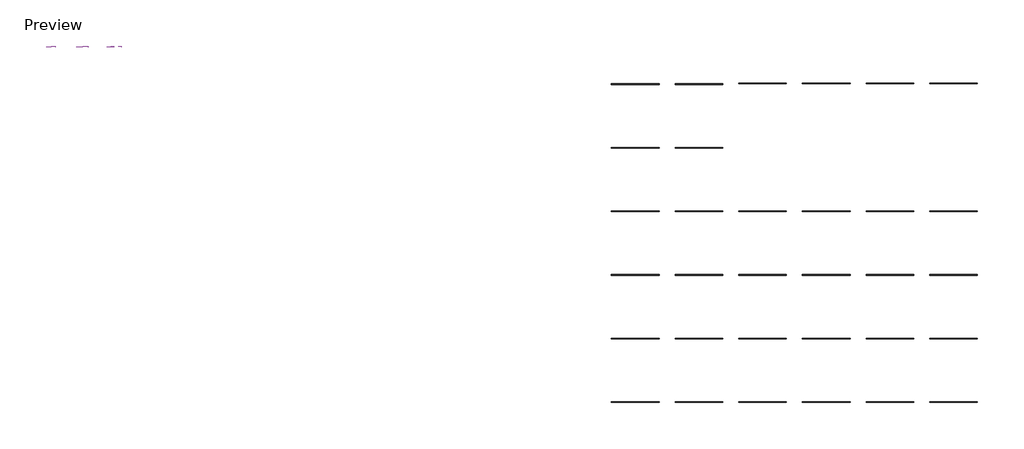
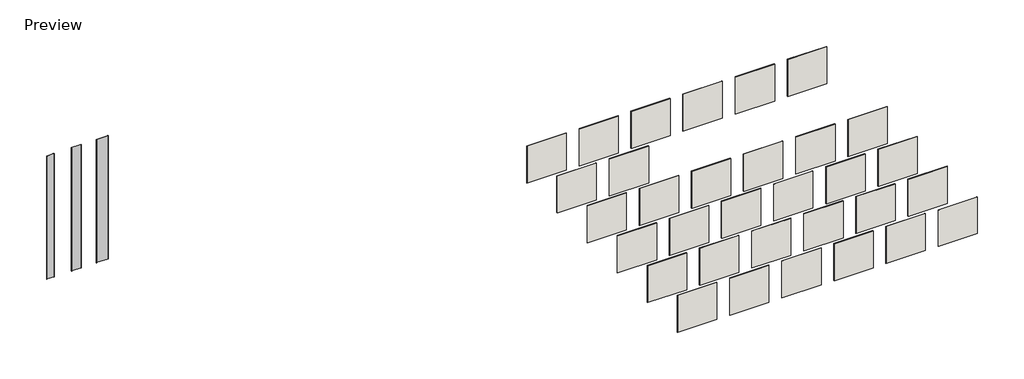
# One storey: 32 walls, 3 proxies.
"""IFC4 building model written with IfcOpenShell, lengths in millimetres."""

from ifc_helpers import new_model, si_unit, frame, origin, origin_with_axes, place, context, project, spatial, polyline, outline, extrude, transform, mapped, element, save
from components import field_lok_fll135_fll135_bba9566f, field_lok_fll175_fll175_662b81a3, field_lok_fll217_fll217_9bbd02b4

model = new_model("IFC4")

# Units and contexts
model_context = context("Model", 3, world=origin())
ifc_project = project(units=[si_unit("LENGTHUNIT", "METRE", prefix="MILLI")], contexts=[model_context])

# Site, building, storey
site = spatial("IfcSite", under=ifc_project)
building = spatial("IfcBuilding", under=site)
storey = spatial("IfcBuildingStorey", under=building, Name="Preview", Elevation=0.0)

# Proxies
placement = place(None, origin())
field_lok_fll135_fll135_shape = field_lok_fll135_fll135_bba9566f(model_context)
element("IfcBuildingElementProxy", 1, Name="Field Lok FLL135 : FLL135", ObjectType="Field Lok FLL135 : FLL135", at=placement, inside=storey, context=model_context, shape_type="MappedRepresentation", body=[
    mapped(field_lok_fll135_fll135_shape, transform((-42009.9924987, 19903.0873646, 4990.816913), x_axis=(0.0, 0.0, 1.0), y_axis=(-1.0, 0.0, 0.0), z_axis=(0.0, -1.0, 0.0))),
])
field_lok_fll175_fll175_shape = field_lok_fll175_fll175_662b81a3(model_context)
element("IfcBuildingElementProxy", 2, Name="Field Lok FLL175 : FLL175", ObjectType="Field Lok FLL175 : FLL175", at=placement, inside=storey, context=model_context, shape_type="MappedRepresentation", body=[
    mapped(field_lok_fll175_fll175_shape, transform((-40762.8993635, 19903.0873646, 5083.7483272), x_axis=(0.0, 0.0, 1.0), y_axis=(-1.0, 0.0, 0.0), z_axis=(0.0, -1.0, 0.0))),
])
field_lok_fll217_fll217_shape = field_lok_fll217_fll217_9bbd02b4(model_context)
element("IfcBuildingElementProxy", 3, Name="Field Lok FLL217 : FLL217", ObjectType="Field Lok FLL217 : FLL217", at=placement, inside=storey, context=model_context, shape_type="MappedRepresentation", body=[
    mapped(field_lok_fll217_fll217_shape, transform((-39430.3124938, 19744.2251808, 5083.7483272), x_axis=(0.0, 0.0, 1.0), y_axis=(-1.0, 0.0, 0.0), z_axis=(0.0, -1.0, 0.0))),
])

# Walls
element("IfcWall", 4, ObjectType="ATAS_Ascot White", at=placement, inside=storey, context=model_context, shape_type="SweptSolid", body=[
    extrude(outline(polyline([(-18839.3718391, 8535.7201131), (-20668.1718391, 8535.7201131), (-20668.1718391, 8559.5326131), (-18839.3718391, 8559.5326131), (-18839.3718391, 8535.7201131)])), origin_with_axes(), (0.0, 0.0, 1.0), 1828.8),
])
element("IfcWall", 5, ObjectType="ATAS_Classic Bronze", at=placement, inside=storey, context=model_context, shape_type="SweptSolid", body=[
    extrude(outline(polyline([(-16400.9718391, 8535.7201131), (-18229.7718391, 8535.7201131), (-18229.7718391, 8559.5326131), (-16400.9718391, 8559.5326131), (-16400.9718391, 8535.7201131)])), origin_with_axes(), (0.0, 0.0, 1.0), 1828.8),
])
element("IfcWall", 6, ObjectType="ATAS_Teal", at=placement, inside=storey, context=model_context, shape_type="SweptSolid", body=[
    extrude(outline(polyline([(-13962.5718391, 8535.7201131), (-15791.3718391, 8535.7201131), (-15791.3718391, 8559.5326131), (-13962.5718391, 8559.5326131), (-13962.5718391, 8535.7201131)])), origin_with_axes(), (0.0, 0.0, 1.0), 1828.8),
])
element("IfcWall", 7, ObjectType="ATAS_Boysenberry", at=placement, inside=storey, context=model_context, shape_type="SweptSolid", body=[
    extrude(outline(polyline([(-11524.1718391, 8535.7201131), (-13352.9718391, 8535.7201131), (-13352.9718391, 8559.5326131), (-11524.1718391, 8559.5326131), (-11524.1718391, 8535.7201131)])), origin_with_axes(), (0.0, 0.0, 1.0), 1828.8),
])
element("IfcWall", 8, ObjectType="ATAS_Rawhide", at=placement, inside=storey, context=model_context, shape_type="SweptSolid", body=[
    extrude(outline(polyline([(-9085.7718391, 8535.7201131), (-10914.5718391, 8535.7201131), (-10914.5718391, 8559.5326131), (-9085.7718391, 8559.5326131), (-9085.7718391, 8535.7201131)])), origin_with_axes(), (0.0, 0.0, 1.0), 1828.8),
])
element("IfcWall", 9, ObjectType="ATAS_Regal Blue", at=placement, inside=storey, context=model_context, shape_type="SweptSolid", body=[
    extrude(outline(polyline([(-6647.3718391, 8535.7201131), (-8476.1718391, 8535.7201131), (-8476.1718391, 8559.5326131), (-6647.3718391, 8559.5326131), (-6647.3718391, 8535.7201131)])), origin_with_axes(), (0.0, 0.0, 1.0), 1828.8),
])
element("IfcWall", 10, ObjectType="ATAS_Black", at=placement, inside=storey, context=model_context, shape_type="SweptSolid", body=[
    extrude(outline(polyline([(-18839.3718391, 6097.3201131), (-20668.1718391, 6097.3201131), (-20668.1718391, 6121.1326131), (-18839.3718391, 6121.1326131), (-18839.3718391, 6097.3201131)])), origin_with_axes(), (0.0, 0.0, 1.0), 1828.8),
])
element("IfcWall", 11, ObjectType="ATAS_Forest Green", at=placement, inside=storey, context=model_context, shape_type="SweptSolid", body=[
    extrude(outline(polyline([(-16400.9718391, 6097.3201131), (-18229.7718391, 6097.3201131), (-18229.7718391, 6121.1326131), (-16400.9718391, 6121.1326131), (-16400.9718391, 6097.3201131)])), origin_with_axes(), (0.0, 0.0, 1.0), 1828.8),
])
element("IfcWall", 12, ObjectType="ATAS_Chocolate Brown", at=placement, inside=storey, context=model_context, shape_type="SweptSolid", body=[
    extrude(outline(polyline([(-13962.5718391, 6097.3201131), (-15791.3718391, 6097.3201131), (-15791.3718391, 6121.1326131), (-13962.5718391, 6121.1326131), (-13962.5718391, 6097.3201131)])), origin_with_axes(), (0.0, 0.0, 1.0), 1828.8),
])
element("IfcWall", 13, ObjectType="ATAS_Sierra Tan", at=placement, inside=storey, context=model_context, shape_type="SweptSolid", body=[
    extrude(outline(polyline([(-11524.1718391, 6097.3201131), (-13352.9718391, 6097.3201131), (-13352.9718391, 6121.1326131), (-11524.1718391, 6121.1326131), (-11524.1718391, 6097.3201131)])), origin_with_axes(), (0.0, 0.0, 1.0), 1828.8),
])
element("IfcWall", 14, ObjectType="ATAS_Sandstone", at=placement, inside=storey, context=model_context, shape_type="SweptSolid", body=[
    extrude(outline(polyline([(-9085.7718391, 6097.3201131), (-10914.5718391, 6097.3201131), (-10914.5718391, 6121.1326131), (-9085.7718391, 6121.1326131), (-9085.7718391, 6097.3201131)])), origin_with_axes(), (0.0, 0.0, 1.0), 1828.8),
])
element("IfcWall", 15, ObjectType="ATAS_Rocky Grey", at=placement, inside=storey, context=model_context, shape_type="SweptSolid", body=[
    extrude(outline(polyline([(-6647.3718391, 6097.3201131), (-8476.1718391, 6097.3201131), (-8476.1718391, 6121.1326131), (-6647.3718391, 6121.1326131), (-6647.3718391, 6097.3201131)])), origin_with_axes(), (0.0, 0.0, 1.0), 1793.6354952),
])
element("IfcWall", 16, ObjectType="ATAS_Charcoal Grey", at=placement, inside=storey, context=model_context, shape_type="SweptSolid", body=[
    extrude(outline(polyline([(-18839.3718391, 10974.1201131), (-20668.1718391, 10974.1201131), (-20668.1718391, 10997.9326131), (-18839.3718391, 10997.9326131), (-18839.3718391, 10974.1201131)])), origin_with_axes(), (0.0, 0.0, 1.0), 1828.8),
])
element("IfcWall", 17, ObjectType="ATAS_Bone White", at=placement, inside=storey, context=model_context, shape_type="SweptSolid", body=[
    extrude(outline(polyline([(-16400.9718391, 10974.1201131), (-18229.7718391, 10974.1201131), (-18229.7718391, 10997.9326131), (-16400.9718391, 10997.9326131), (-16400.9718391, 10974.1201131)])), origin_with_axes(), (0.0, 0.0, 1.0), 1828.8),
])
element("IfcWall", 18, ObjectType="ATAS_Medium Bronze", at=placement, inside=storey, context=model_context, shape_type="SweptSolid", body=[
    extrude(outline(polyline([(-13962.5718391, 10974.1201131), (-15791.3718391, 10974.1201131), (-15791.3718391, 10997.9326131), (-13962.5718391, 10997.9326131), (-13962.5718391, 10974.1201131)])), origin_with_axes(), (0.0, 0.0, 1.0), 1828.8),
])
element("IfcWall", 19, ObjectType="ATAS_Hemlock Green", at=placement, inside=storey, context=model_context, shape_type="SweptSolid", body=[
    extrude(outline(polyline([(-11524.1718391, 10974.1201131), (-13352.9718391, 10974.1201131), (-13352.9718391, 10997.9326131), (-11524.1718391, 10997.9326131), (-11524.1718391, 10974.1201131)])), origin_with_axes(), (0.0, 0.0, 1.0), 1828.8),
])
element("IfcWall", 20, ObjectType="ATAS_Redwood", at=placement, inside=storey, context=model_context, shape_type="SweptSolid", body=[
    extrude(outline(polyline([(-9085.7718391, 10974.1201131), (-10914.5718391, 10974.1201131), (-10914.5718391, 10997.9326131), (-9085.7718391, 10997.9326131), (-9085.7718391, 10974.1201131)])), origin_with_axes(), (0.0, 0.0, 1.0), 1828.8),
])
element("IfcWall", 21, ObjectType="ATAS_Concord Cream", at=placement, inside=storey, context=model_context, shape_type="SweptSolid", body=[
    extrude(outline(polyline([(-6647.3718391, 10974.1201131), (-8476.1718391, 10974.1201131), (-8476.1718391, 10997.9326131), (-6647.3718391, 10997.9326131), (-6647.3718391, 10974.1201131)])), origin_with_axes(), (0.0, 0.0, 1.0), 1828.8),
])
element("IfcWall", 22, ObjectType="ATAS_Slate Blue", at=placement, inside=storey, context=model_context, shape_type="SweptSolid", body=[
    extrude(outline(polyline([(-18839.3718391, 13412.5201131), (-20668.1718391, 13412.5201131), (-20668.1718391, 13436.3326131), (-18839.3718391, 13436.3326131), (-18839.3718391, 13412.5201131)])), origin_with_axes(), (0.0, 0.0, 1.0), 1828.8),
])
element("IfcWall", 23, ObjectType="ATAS_Slate Grey", at=placement, inside=storey, context=model_context, shape_type="SweptSolid", body=[
    extrude(outline(polyline([(-16400.9718391, 13412.5201131), (-18229.7718391, 13412.5201131), (-18229.7718391, 13436.3326131), (-16400.9718391, 13436.3326131), (-16400.9718391, 13412.5201131)])), origin_with_axes(), (0.0, 0.0, 1.0), 1828.8),
])
element("IfcWall", 24, ObjectType="ATAS_Hatford Green", at=placement, inside=storey, context=model_context, shape_type="SweptSolid", body=[
    extrude(outline(polyline([(-13962.5718391, 13412.5201131), (-15791.3718391, 13412.5201131), (-15791.3718391, 13436.3326131), (-13962.5718391, 13436.3326131), (-13962.5718391, 13412.5201131)])), origin_with_axes(), (0.0, 0.0, 1.0), 1828.8),
])
element("IfcWall", 25, ObjectType="ATAS_Patina Green", at=placement, inside=storey, context=model_context, shape_type="SweptSolid", body=[
    extrude(outline(polyline([(-11524.1718391, 13412.5201131), (-13352.9718391, 13412.5201131), (-13352.9718391, 13436.3326131), (-11524.1718391, 13436.3326131), (-11524.1718391, 13412.5201131)])), frame((0.0, 0.0, -5.2424975), z_axis=(0.0, 0.0, 1.0), x_axis=(1.0, 0.0, 0.0)), (0.0, 0.0, 1.0), 1834.0424975),
])
element("IfcWall", 26, ObjectType="ATAS_Mission Red", at=placement, inside=storey, context=model_context, shape_type="SweptSolid", body=[
    extrude(outline(polyline([(-9085.7718391, 13412.5201131), (-10914.5718391, 13412.5201131), (-10914.5718391, 13436.3326131), (-9085.7718391, 13436.3326131), (-9085.7718391, 13412.5201131)])), origin_with_axes(), (0.0, 0.0, 1.0), 1828.8),
])
element("IfcWall", 27, ObjectType="ATAS_Almond", at=placement, inside=storey, context=model_context, shape_type="SweptSolid", body=[
    extrude(outline(polyline([(-6647.3718391, 13412.5201131), (-8476.1718391, 13412.5201131), (-8476.1718391, 13436.3326131), (-6647.3718391, 13436.3326131), (-6647.3718391, 13412.5201131)])), origin_with_axes(), (0.0, 0.0, 1.0), 1828.8),
])
element("IfcWall", 28, ObjectType="ATAS_Siam Blue", at=placement, inside=storey, context=model_context, shape_type="SweptSolid", body=[
    extrude(outline(polyline([(-18839.3718391, 15850.9201131), (-20668.1718391, 15850.9201131), (-20668.1718391, 15874.7326131), (-18839.3718391, 15874.7326131), (-18839.3718391, 15850.9201131)])), origin_with_axes(), (0.0, 0.0, 1.0), 1828.8),
])
element("IfcWall", 29, ObjectType="ATAS_Dove Grey", at=placement, inside=storey, context=model_context, shape_type="SweptSolid", body=[
    extrude(outline(polyline([(-16400.9718391, 15850.9201131), (-18229.7718391, 15850.9201131), (-18229.7718391, 15874.7326131), (-16400.9718391, 15874.7326131), (-16400.9718391, 15850.9201131)])), origin_with_axes(), (0.0, 0.0, 1.0), 1828.8),
])
element("IfcWall", 30, ObjectType="ATAS_Antique Patina", at=placement, inside=storey, context=model_context, shape_type="SweptSolid", body=[
    extrude(outline(polyline([(-13962.5718391, 18313.1326131), (-15791.3718391, 18313.1326131), (-15791.3718391, 18336.9451131), (-13962.5718391, 18336.9451131), (-13962.5718391, 18313.1326131)])), origin_with_axes(), (0.0, 0.0, 1.0), 1828.8),
])
element("IfcWall", 31, ObjectType="ATAS_Champagne", at=placement, inside=storey, context=model_context, shape_type="SweptSolid", body=[
    extrude(outline(polyline([(-11524.1718391, 18313.1326131), (-13352.9718391, 18313.1326131), (-13352.9718391, 18336.9451131), (-11524.1718391, 18336.9451131), (-11524.1718391, 18313.1326131)])), origin_with_axes(), (0.0, 0.0, 1.0), 1828.8),
])
element("IfcWall", 32, ObjectType="ATAS_Coppertone", at=placement, inside=storey, context=model_context, shape_type="SweptSolid", body=[
    extrude(outline(polyline([(-9085.7718391, 18313.1326131), (-10914.5718391, 18313.1326131), (-10914.5718391, 18336.9451131), (-9085.7718391, 18336.9451131), (-9085.7718391, 18313.1326131)])), origin_with_axes(), (0.0, 0.0, 1.0), 1828.8),
])
element("IfcWall", 33, ObjectType="ATAS_Silversmith", at=placement, inside=storey, context=model_context, shape_type="SweptSolid", body=[
    extrude(outline(polyline([(-18839.3718391, 18289.3201131), (-20668.1718391, 18289.3201131), (-20668.1718391, 18313.1326131), (-18839.3718391, 18313.1326131), (-18839.3718391, 18289.3201131)])), origin_with_axes(), (0.0, 0.0, 1.0), 1828.8),
])
element("IfcWall", 34, ObjectType="ATAS_Brite Red", at=placement, inside=storey, context=model_context, shape_type="SweptSolid", body=[
    extrude(outline(polyline([(-16400.9718391, 18289.3201131), (-18229.7718391, 18289.3201131), (-18229.7718391, 18313.1326131), (-16400.9718391, 18313.1326131), (-16400.9718391, 18289.3201131)])), origin_with_axes(), (0.0, 0.0, 1.0), 1828.8),
])
element("IfcWall", 35, ObjectType="ATAS_Titanium", at=placement, inside=storey, context=model_context, shape_type="SweptSolid", body=[
    extrude(outline(polyline([(-6647.3718391, 18313.1326131), (-8476.1718391, 18313.1326131), (-8476.1718391, 18336.9451131), (-6647.3718391, 18336.9451131), (-6647.3718391, 18313.1326131)])), origin_with_axes(), (0.0, 0.0, 1.0), 1828.8),
])

save(model, "model.ifc")
